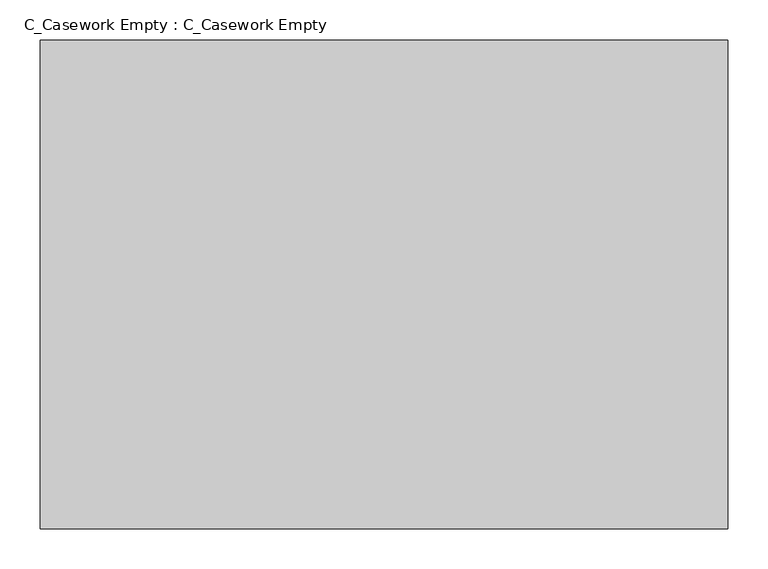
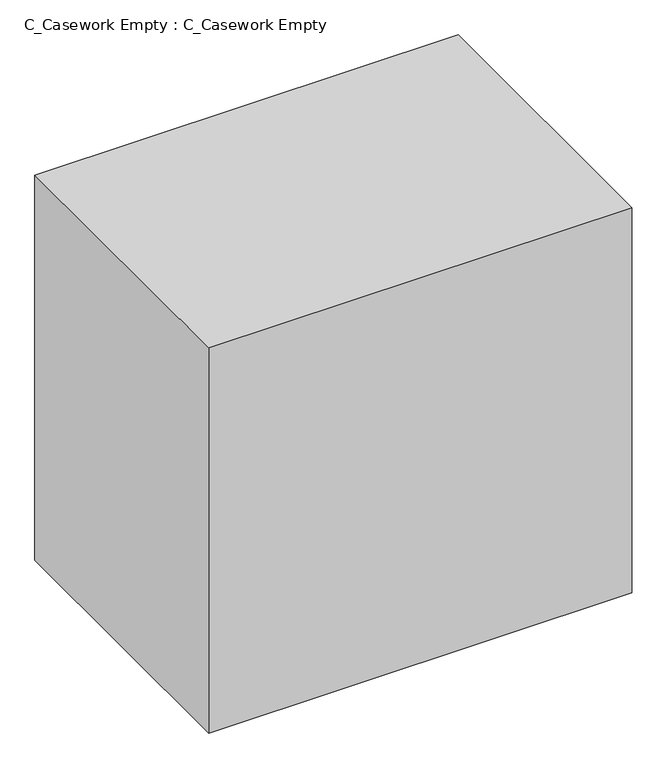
"""IFC4 building model written with IfcOpenShell, lengths in millimetres: furniture geometry, C_Casework Empty : C_Casework Empty."""

from ifc_helpers import new_model, si_unit, origin, place, context, project, spatial, faceted_brep, source, transform, mapped, element, save


def c_casework_empty_c_casework_empty_a727a4a9(model_context):
    return source(origin(), model_context, "Body", "Brep", [
        faceted_brep([(428.625, 609.6, 0.0), (-428.625, 609.6, 0.0), (-428.625, 609.6, 825.5), (428.625, 609.6, 825.5), (-403.225, 609.6, 800.1), (-403.225, 609.6, 25.4), (403.225, 609.6, 25.4), (403.225, 609.6, 800.1), (428.625, 0.0, 825.5), (428.625, 0.0, 0.0), (-428.625, 0.0, 825.5), (-428.625, 0.0, 0.0), (403.225, 25.4, 800.1), (-403.225, 25.4, 800.1), (403.225, 25.4, 25.4), (-403.225, 25.4, 25.4)], [[[0, 1, 2, 3], [4, 5, 6, 7]], [[0, 3, 8, 9]], [[8, 3, 2, 10]], [[10, 2, 1, 11]], [[11, 1, 0, 9]], [[4, 7, 12, 13]], [[7, 6, 14, 12]], [[6, 5, 15, 14]], [[5, 4, 13, 15]], [[8, 10, 11, 9]], [[13, 12, 14, 15]]]),
    ])


if __name__ == "__main__":
    model = new_model("IFC4")
    model_context = context("Model", 3, world=origin())
    ifc_project = project(units=[si_unit("LENGTHUNIT", "METRE", prefix="MILLI")], contexts=[model_context])
    site = spatial("IfcSite", under=ifc_project)
    building = spatial("IfcBuilding", under=site)
    placement = place(None, origin())
    c_casework_empty_c_casework_empty_shape = c_casework_empty_c_casework_empty_a727a4a9(model_context)
    element("IfcFurniture", 1, ObjectType="C_Casework Empty : C_Casework Empty", at=placement, inside=building, context=model_context, shape_type="MappedRepresentation", body=[
        mapped(c_casework_empty_c_casework_empty_shape, transform((0.0, 0.0, 0.0), x_axis=(1.0, 0.0, 0.0), y_axis=(0.0, 1.0, 0.0), z_axis=(0.0, 0.0, 1.0))),
    ])
    save(model, "model.ifc")
